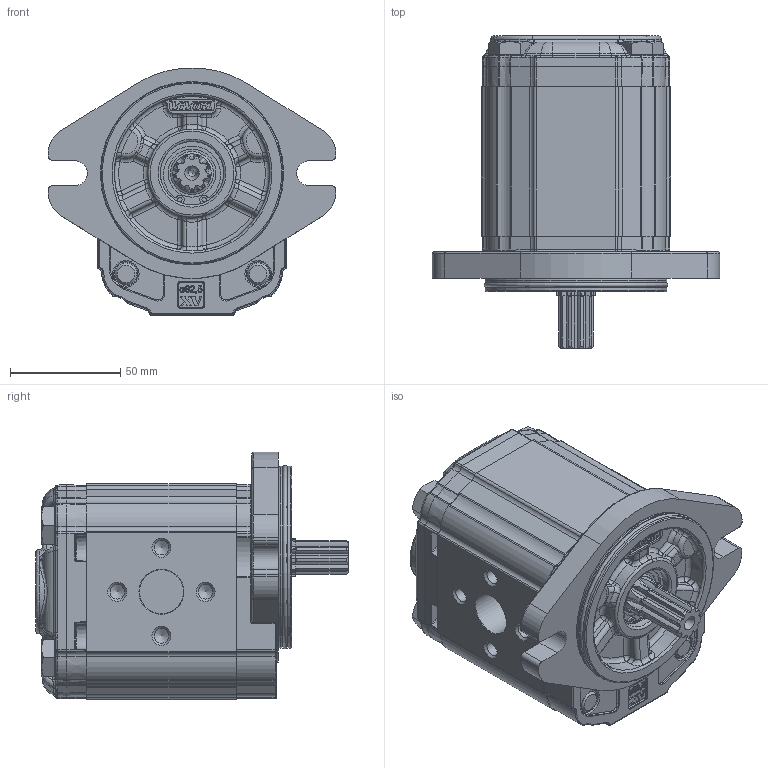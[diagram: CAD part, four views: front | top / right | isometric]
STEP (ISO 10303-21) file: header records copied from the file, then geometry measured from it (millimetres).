
FILE_DESCRIPTION(/* description */ ('Unknown'),/* implementation_level */ '2;1');
FILE_NAME(/* name */ 'X2R5131IPPF',/* time_stamp */ '2021-04-26T12:44:46+02:00',/* author */ ('Unknown'),/* organization */ ('Unknown'),/* preprocessor_version */ 'ST-DEVELOPER v16.7',/* originating_system */ 'Solid Edge',/* authorisation */ 'Unknown');
FILE_SCHEMA (('CONFIG_CONTROL_DESIGN','AUTOMOTIVE_DESIGN {1 0 10303 214 3 1 1}'));
Products named in the file (5): X2R5131IPPF; X2R31; 2I; X2PPH68; XR219-F
Assembly tree (4 placements, depth 2):
  X2R5131IPPF
    X2R31
    2I
    X2PPH68
    XR219-F
Bounding box: 130.38 x 141.7 x 112.3 mm (x, y, z)
Volume: 804315.1 mm3; surface area: 121219.6 mm2
Topology: 4 solids, 5 shells, 2134 faces, 5264 edges, 3209 vertices
Faces by surface type: cylinder 636, plane 574, bspline 513, torus 257, cone 116, sphere 38
Full cylindrical faces by diameter (mm): 2 x2, 6.647 x8, 10 x4, 10.5 x4, 11 x2, 11.5 x4, 16 x4, 17.42 x1, 17.48 x2, 18.724 x1, 20 x2, 20.595 x1, 21.741 x1, 25.834 x1, 28.56 x1, 28.57 x1, 28.8 x1, 30.4 x1, 79.6 x2, 82.5 x2
Entity records: 88275 total; most frequent: CARTESIAN_POINT 28287, ORIENTED_EDGE 10122, DIRECTION 8540, EDGE_CURVE 5061, AXIS2_PLACEMENT_3D 3258, VERTEX_POINT 3145, FACE_BOUND 2352, EDGE_LOOP 2342
